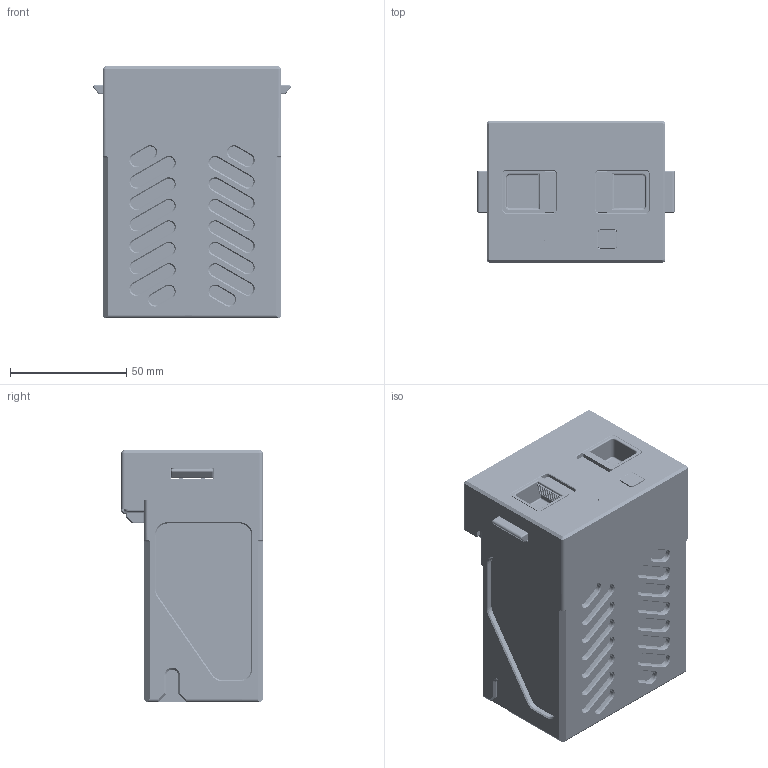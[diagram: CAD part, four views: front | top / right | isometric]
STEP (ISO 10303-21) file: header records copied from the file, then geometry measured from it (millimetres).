
FILE_DESCRIPTION (( 'STEP AP203' ), '1' );
FILE_NAME ('HTPW-24vPower battery V1.STEP', '2025-06-23T15:29:01', ( '' ), ( '' ), 'SwSTEP 2.0', 'SolidWorks 2024', '' );
FILE_SCHEMA (( 'CONFIG_CONTROL_DESIGN' ));
Length unit declared in the file: millimetre
Products named in the file (12): 3D_BMS_LED_2024-07-25; 锁定外壳; 21700电池组; HTPW-24vPower battery V1; 电源按钮; 电池外壳_小电池; 滑动卡舌; 电池内壳; 导光柱、; 3D_BMS_2024-07-25; 弹簧限位件; PCB_电池接插件
Assembly tree (15 placements, depth 2):
  HTPW-24vPower battery V1
    锁定外壳
    PCB_电池接插件
    电池外壳_小电池
    21700电池组
    滑动卡舌  x2
    弹簧限位件
    3D_BMS_2024-07-25
    3D_BMS_LED_2024-07-25
    电源按钮
    导光柱、  x4
    电池内壳
Bounding box: 84.99 x 61 x 108.7 mm (x, y, z)
Volume: 315285.2 mm3; surface area: 160376.7 mm2
Topology: 153 solids, 153 shells, 14562 faces, 38332 edges, 24441 vertices
Faces by surface type: plane 8002, bspline 3334, cylinder 2327, torus 349, sphere 326, cone 224
Entity records: 476306 total; most frequent: CARTESIAN_POINT 144629, ORIENTED_EDGE 74926, DIRECTION 56513, EDGE_CURVE 37463, LINE 25385, VECTOR 25385, VERTEX_POINT 24054, AXIS2_PLACEMENT_3D 15564
